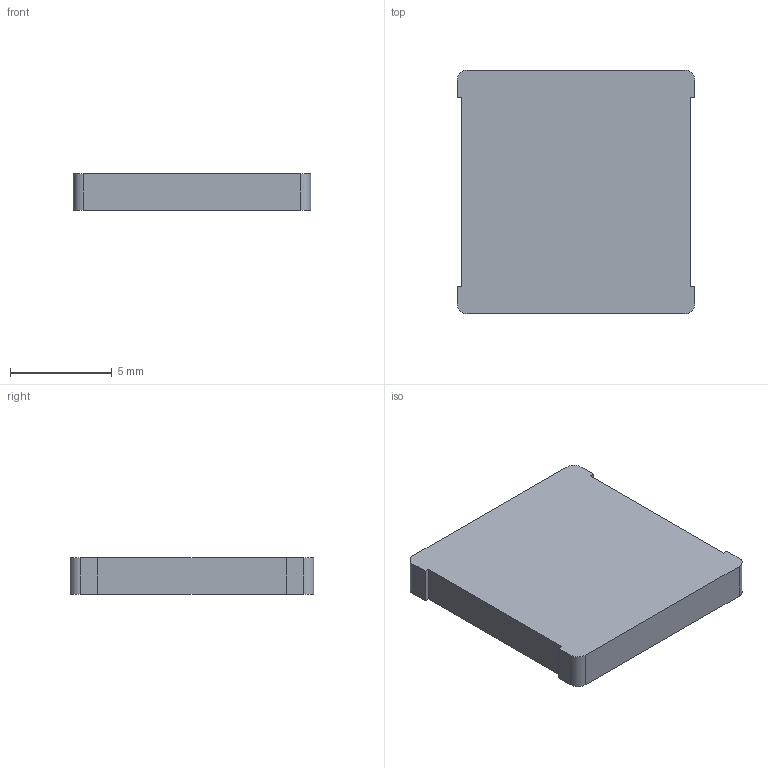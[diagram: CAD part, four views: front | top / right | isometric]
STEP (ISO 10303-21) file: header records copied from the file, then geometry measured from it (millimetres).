
FILE_DESCRIPTION(/* description */ ('STEP AP242 Edition 2','CAx-IF Rec.Pracs.---Representation and Presentation of Product Manufacturing Information (PMI)---4.0---2014-10-13','CAx-IF Rec.Pracs.---3D Tessellated Geometry---0.4---2014-09-14','2;1','CAx-IF Rec.Pracs.---User Defined Attributes---1.5---2016-08-15'),/* implementation_level */ '2;1');
FILE_NAME(/* name */ 'Assembly 1 - SW-TH_EC11E18244A5~SW-TH_EC11E18244A5-L11.7-W12.0-H24.5-P2.5-LS14.5~nxQB (8)',/* time_stamp */ '2026-04-02T09:55:29Z',/* author */ (''),/* organization */ (''),/* preprocessor_version */ 'ST-DEVELOPER v20',/* originating_system */ 'ONSHAPE BY PTC INC, 1.212',/* authorisation */ ' ');
FILE_SCHEMA (('AP242_MANAGED_MODEL_BASED_3D_ENGINEERING_MIM_LF { 1 0 10303 442 3 1 4 }'));
Length unit declared in the file: metre
Products named in the file (1): SW-TH_EC11E18244A5~SW-TH_EC11E18244A5-L11.7-W12.0-H24.5-P2.5-LS14.5~n
xQB
Bounding box: 11.7 x 12 x 1.79 mm (x, y, z)
Volume: 243.6 mm3; surface area: 357.1 mm2
Topology: 1 solids, 1 shells, 18 faces, 48 edges, 32 vertices
Faces by surface type: plane 14, cylinder 4
Entity records: 709 total; most frequent: CARTESIAN_POINT 99, ORIENTED_EDGE 96, DIRECTION 94, EDGE_CURVE 48, LINE 40, VECTOR 40, VERTEX_POINT 32, AXIS2_PLACEMENT_3D 27
